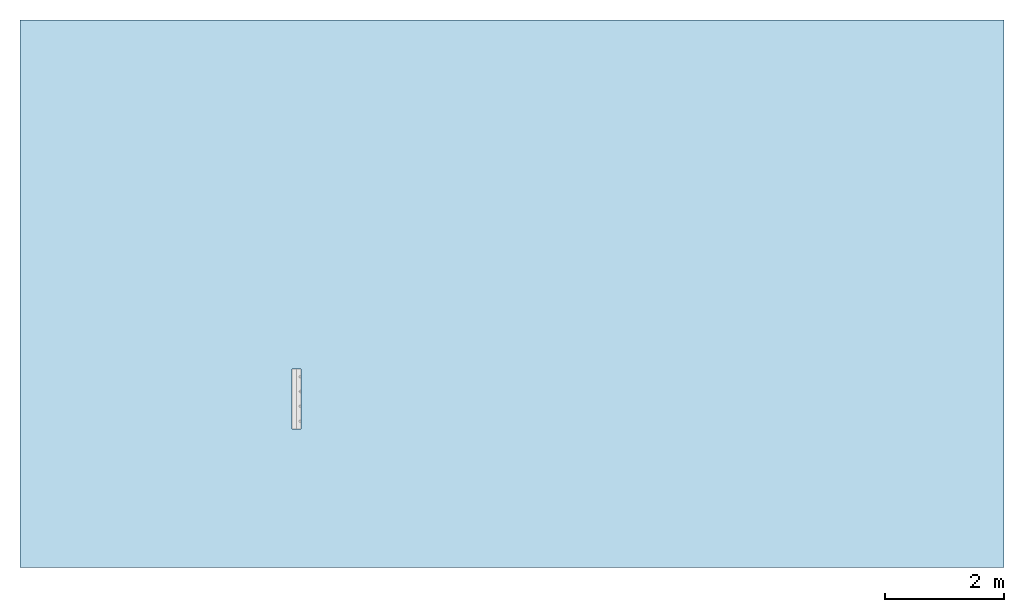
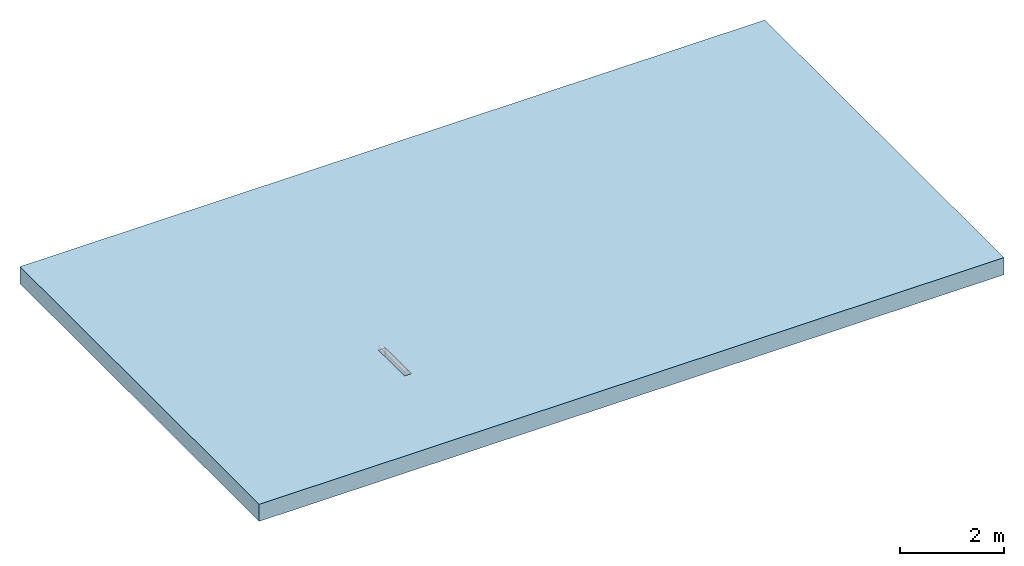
# One storey, incomplete: 1 slab, 2 openings.
"""IFC2X3 building model written with IfcOpenShell, lengths in millimetres."""

from ifc_helpers import new_model, entity, si_unit, converted_unit, direction, frame, frame_2d, origin, origin_2d_with_axis, place, context, subcontext, project, spatial, rectangle, extrude, material, layer, layer_set, layer_usage, element, save


model = new_model("IFC2X3")

# Units and contexts
model_context = context("Model", 3, precision=1e-06, world=origin(), true_north=direction((2.0, 6.12303176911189e-17, 1.0)))
context_of_model = context(None, 3, precision=1e-06, world=origin(), true_north=direction((2.0, 6.12303176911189e-17, 1.0)))
body_context = subcontext(model_context, "Body", "Model", "MODEL_VIEW")
ifc_project = project(units=[si_unit("LENGTHUNIT", "METRE", prefix="MILLI"), si_unit("AREAUNIT", "SQUARE_METRE", prefix="MILLI"), si_unit("VOLUMEUNIT", "CUBIC_METRE", prefix="MILLI"), converted_unit("PLANEANGLEUNIT", "DEGREE", entity("IfcRatioMeasure", 0.0174532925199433), si_unit("PLANEANGLEUNIT", "RADIAN"), dimensions=[0, 0, 0, 0, 0, 0, 0]), si_unit("TIMEUNIT", "SECOND")], contexts=[model_context, context_of_model])

# Site, building, storey
site_placement = place(None, origin())
site = spatial("IfcSite", under=ifc_project, at=site_placement, Name="Default", CompositionType="ELEMENT")
building_placement = place(site_placement, origin())
building = spatial("IfcBuilding", under=site, at=building_placement, CompositionType="ELEMENT")
storey_placement = place(building_placement, origin())
storey = spatial("IfcBuildingStorey", under=building, at=storey_placement, Name="Level 1", CompositionType="ELEMENT", Elevation=0.0)

# Slab, openings
ifc_material = material(Name="Plant")
ifc_layer = layer(ifc_material, 400.0)
ifc_layer_set = layer_set([ifc_layer], Name="Floor:Generic Floor - 400mm")
ifc_layer_usage = layer_usage(ifc_layer_set, "AXIS3", "POSITIVE", 0.0)
slab_placement = place(storey_placement, frame((-17967.0691536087, -3738.31688706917, -400.0)))
slab = element("IfcSlab", 1, at=slab_placement, inside=storey, material=ifc_layer_usage, Name="Floor:Generic Floor - 400mm", ObjectType="Floor:Generic Floor - 400mm", PredefinedType="FLOOR", context=body_context, shape_type="SweptSolid", body=[
    extrude(rectangle(XDim=9180.0, YDim=16500.0, at=frame_2d((0.0, 0.0), x_axis=(0.0, -1.0))), frame((8250.0, 4590.0, 400.0), z_axis=(0.0, 0.0, -1.0), x_axis=(-1.0, 0.0, 0.0)), (0.0, 0.0, 1.0), 400.0),
])
opening_1_placement = place(slab_placement, origin())
element("IfcOpeningElement", 2, at=opening_1_placement, cuts=slab, ObjectType="Recess", context=body_context, shape_type="SweptSolid", body=[
    extrude(rectangle(XDim=280.350941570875, YDim=1.99999999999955, at=origin_2d_with_axis()), frame((4562.79407136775, 2575.77056590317, -1754.0), z_axis=(0.0, 0.0, 1.0), x_axis=(0.0, 1.0, 0.0)), (0.0, 0.0, 1.0), 279.000000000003),
])
opening_2_placement = place(slab_placement, origin())
element("IfcOpeningElement", 3, at=opening_2_placement, cuts=slab, ObjectType="Recess", context=body_context, shape_type="SweptSolid", body=[
    extrude(rectangle(XDim=149.999999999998, YDim=1000.0, at=origin_2d_with_axis()), frame((4636.79407136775, 2825.59509511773, 120.0), z_axis=(0.0, 0.0, 1.0), x_axis=(-1.0, 0.0, 0.0)), (0.0, 0.0, 1.0), 280.0),
])

save(model, "model.ifc")
